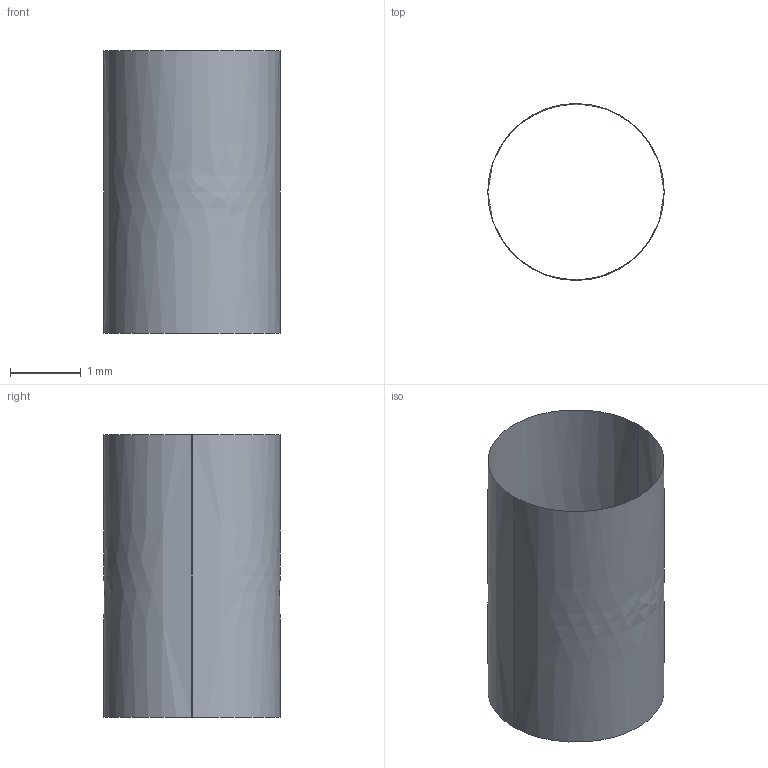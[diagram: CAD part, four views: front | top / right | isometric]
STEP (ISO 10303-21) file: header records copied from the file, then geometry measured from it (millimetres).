
FILE_DESCRIPTION((''),'2;1');
FILE_NAME('PLATINE','2015-06-08T',('SESA69708'),('Schneider-Electric'),'PRO/ENGINEER BY PARAMETRIC TECHNOLOGY CORPORATION, 2012420','PRO/ENGINEER BY PARAMETRIC TECHNOLOGY CORPORATION, 2012420','');
FILE_SCHEMA(('CONFIG_CONTROL_DESIGN'));
Length unit declared in the file: millimetre
Products named in the file (1): PLATINE
Bounding box: 2.5 x 2.5 x 4 mm (x, y, z)
Surface area: 31.4 mm2 (no closed solid volume)
Topology: 0 solids, 0 shells, 2 faces, 8 edges, 8 vertices
Faces by surface type: bspline 2
Entity records: 237 total; most frequent: CARTESIAN_POINT 102, DIRECTION 18, TRIMMED_CURVE 14, VECTOR 10, LINE 10, DEFINITIONAL_REPRESENTATION 8, PCURVE 8, COMPOSITE_CURVE_SEGMENT 8
